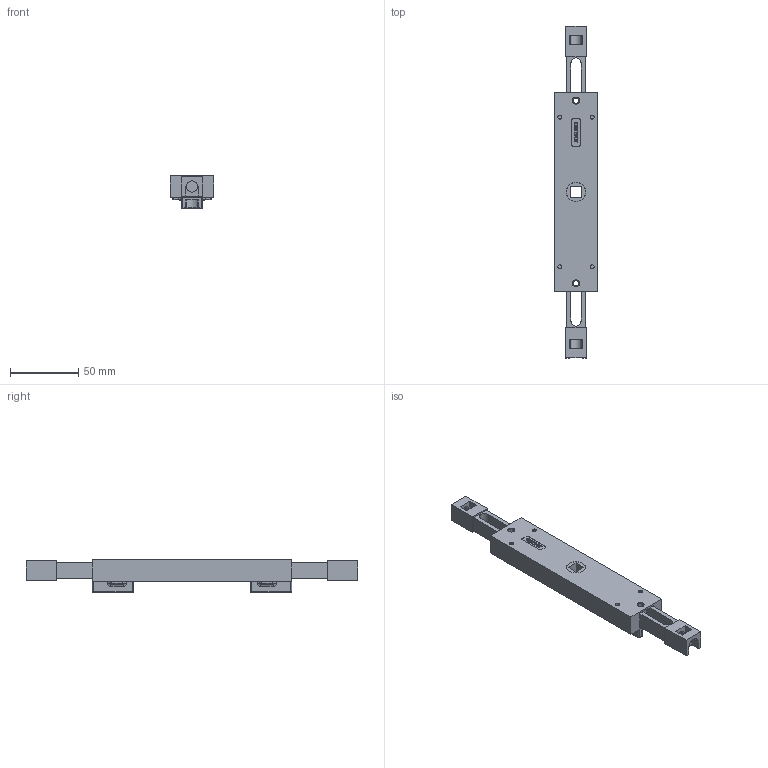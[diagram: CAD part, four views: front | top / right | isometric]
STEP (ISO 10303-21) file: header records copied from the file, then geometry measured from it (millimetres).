
FILE_DESCRIPTION (( 'STEP AP214' ), '1' );
FILE_NAME ('TPL-H-006-A.STEP', '2024-07-11T04:30:04', ( '' ), ( '' ), 'SwSTEP 2.0', 'SolidWorks 2023', '' );
FILE_SCHEMA (( 'AUTOMOTIVE_DESIGN' ));
Length unit declared in the file: millimetre
Products named in the file (5): Copy of TPLGen2 lock body non-keyed^Copy of TPLGen2 lock body non-keyed assembly_TPL-H-500; TPLGen2 push rod - simplified_Female thread M10; Copy of TPL-H-506^TPL-H-500; TPL-H-006-A; Copy of TPLGen2 lock body non-keyed assembly^TPL-H-500_Bolts extended
Assembly tree (6 placements, depth 3):
  TPL-H-006-A
    Copy of TPLGen2 lock body non-keyed assembly^TPL-H-500_Bolts extended
      Copy of TPLGen2 lock body non-keyed^Copy of TPLGen2 lock body non-keyed assembly_TPL-H-500
      TPLGen2 push rod - simplified_Female thread M10  x2
    Copy of TPL-H-506^TPL-H-500  x2
Bounding box: 32 x 242.6 x 23.5 mm (x, y, z)
Volume: 81816.9 mm3; surface area: 33005 mm2
Topology: 5 solids, 5 shells, 560 faces, 1421 edges, 894 vertices
Faces by surface type: plane 241, cylinder 158, bspline 97, torus 42, sphere 14, cone 8
Entity records: 12572 total; most frequent: CARTESIAN_POINT 3752, ORIENTED_EDGE 1890, DIRECTION 1619, EDGE_CURVE 945, VERTEX_POINT 606, LINE 553, VECTOR 553, AXIS2_PLACEMENT_3D 533
